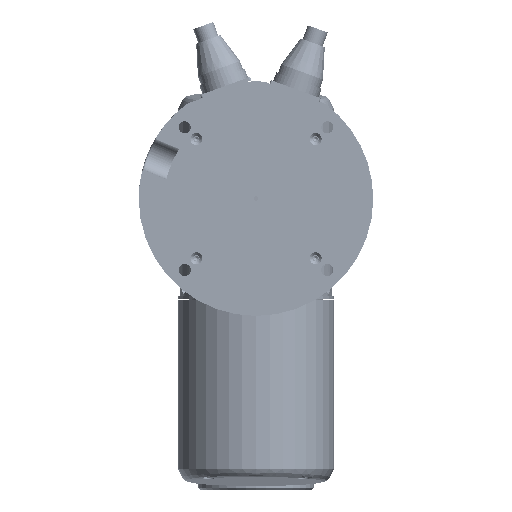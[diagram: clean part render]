
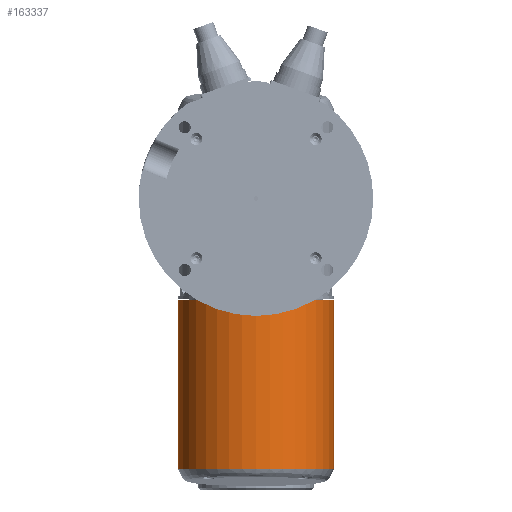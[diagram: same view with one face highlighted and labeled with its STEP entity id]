
A CAD part, front view. The second image highlights one B-rep face of the part: STEP entity #163337.
In plain terms, the highlighted cylindrical face has radius 42.5 mm (diameter 85 mm), a partial arc.
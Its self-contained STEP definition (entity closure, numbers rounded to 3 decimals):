
#292 = AXIS2_PLACEMENT_3D ( 'NONE', #119649, #82938, #138431 ) ;
#6011 = CARTESIAN_POINT ( 'NONE',  ( 42.5, 0., 92. ) ) ;
#9505 = DIRECTION ( 'NONE',  ( 0., 0., -1. ) ) ;
#12102 = DIRECTION ( 'NONE',  ( -1., 0., 0. ) ) ;
#12789 = LINE ( 'NONE', #132417, #127443 ) ;
#13003 = ORIENTED_EDGE ( 'NONE', *, *, #88236, .T. ) ;
#27924 = VECTOR ( 'NONE', #9505, 1000. ) ;
#28534 = ORIENTED_EDGE ( 'NONE', *, *, #87106, .F. ) ;
#31809 = VERTEX_POINT ( 'NONE', #203059 ) ;
#36349 = EDGE_CURVE ( 'NONE', #185122, #219349, #113445, .T. ) ;
#41673 = DIRECTION ( 'NONE',  ( 0., 0., -1. ) ) ;
#44003 = ORIENTED_EDGE ( 'NONE', *, *, #207871, .T. ) ;
#46755 = DIRECTION ( 'NONE',  ( 0., 0., -1. ) ) ;
#56741 = DIRECTION ( 'NONE',  ( 0., 0., 1. ) ) ;
#59571 = CARTESIAN_POINT ( 'NONE',  ( -42.5, 0., 92. ) ) ;
#64276 = VERTEX_POINT ( 'NONE', #179097 ) ;
#69970 = VERTEX_POINT ( 'NONE', #108205 ) ;
#73824 = CARTESIAN_POINT ( 'NONE',  ( -42.5, 0., 0. ) ) ;
#82513 = EDGE_CURVE ( 'NONE', #31809, #185605, #181141, .T. ) ;
#82938 = DIRECTION ( 'NONE',  ( 0., 0., -1. ) ) ;
#87106 = EDGE_CURVE ( 'NONE', #64276, #69970, #12789, .T. ) ;
#88236 = EDGE_CURVE ( 'NONE', #185605, #69970, #91987, .T. ) ;
#91987 = CIRCLE ( 'NONE', #149831, 42.5 ) ;
#108205 = CARTESIAN_POINT ( 'NONE',  ( 42.5, 0., 0. ) ) ;
#109714 = ORIENTED_EDGE ( 'NONE', *, *, #36349, .T. ) ;
#112347 = DIRECTION ( 'NONE',  ( -1., 0., 0. ) ) ;
#113445 = CIRCLE ( 'NONE', #292, 42.5 ) ;
#114327 = ORIENTED_EDGE ( 'NONE', *, *, #82513, .T. ) ;
#115357 = EDGE_LOOP ( 'NONE', ( #164995, #109714, #44003, #114327, #13003, #28534 ) ) ;
#116831 = VECTOR ( 'NONE', #46755, 1000. ) ;
#119649 = CARTESIAN_POINT ( 'NONE',  ( 0., 0., 92. ) ) ;
#120011 = DIRECTION ( 'NONE',  ( 0., 0., -1. ) ) ;
#127443 = VECTOR ( 'NONE', #41673, 1000. ) ;
#132417 = CARTESIAN_POINT ( 'NONE',  ( 42.5, 0., 92. ) ) ;
#138431 = DIRECTION ( 'NONE',  ( -1., 0., 0. ) ) ;
#145900 = CARTESIAN_POINT ( 'NONE',  ( 0., 0., 0. ) ) ;
#149831 = AXIS2_PLACEMENT_3D ( 'NONE', #145900, #56741, #112347 ) ;
#153942 = LINE ( 'NONE', #161451, #195915 ) ;
#161451 = CARTESIAN_POINT ( 'NONE',  ( 42.5, 0., 92. ) ) ;
#163337 = ADVANCED_FACE ( 'NONE', ( #175182 ), #200309, .T. ) ;
#164995 = ORIENTED_EDGE ( 'NONE', *, *, #206403, .F. ) ;
#167888 = LINE ( 'NONE', #188535, #27924 ) ;
#175182 = FACE_OUTER_BOUND ( 'NONE', #115357, .T. ) ;
#179097 = CARTESIAN_POINT ( 'NONE',  ( 42.5, 0., 42.5 ) ) ;
#181141 = LINE ( 'NONE', #188272, #116831 ) ;
#185122 = VERTEX_POINT ( 'NONE', #6011 ) ;
#185605 = VERTEX_POINT ( 'NONE', #73824 ) ;
#187880 = AXIS2_PLACEMENT_3D ( 'NONE', #209836, #120011, #12102 ) ;
#188272 = CARTESIAN_POINT ( 'NONE',  ( -42.5, 0., 92. ) ) ;
#188535 = CARTESIAN_POINT ( 'NONE',  ( -42.5, 0., 92. ) ) ;
#195915 = VECTOR ( 'NONE', #214656, 1000. ) ;
#200309 = CYLINDRICAL_SURFACE ( 'NONE', #187880, 42.5 ) ;
#203059 = CARTESIAN_POINT ( 'NONE',  ( -42.5, 0., 42.5 ) ) ;
#206403 = EDGE_CURVE ( 'NONE', #185122, #64276, #153942, .T. ) ;
#207871 = EDGE_CURVE ( 'NONE', #219349, #31809, #167888, .T. ) ;
#209836 = CARTESIAN_POINT ( 'NONE',  ( 0., 0., 92. ) ) ;
#214656 = DIRECTION ( 'NONE',  ( 0., 0., -1. ) ) ;
#219349 = VERTEX_POINT ( 'NONE', #59571 ) ;
